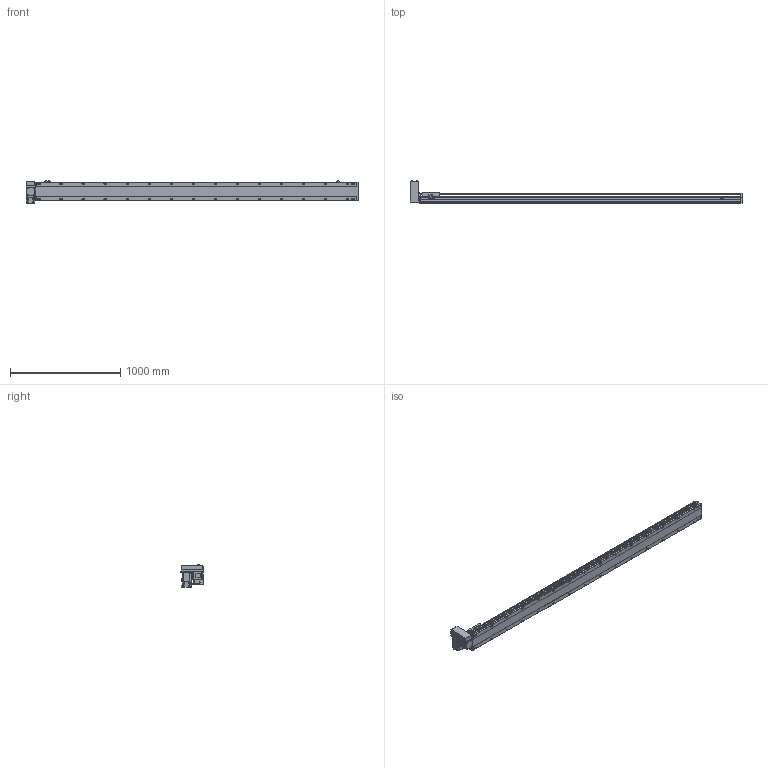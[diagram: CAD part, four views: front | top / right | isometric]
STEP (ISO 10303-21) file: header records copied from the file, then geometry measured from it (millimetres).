
FILE_DESCRIPTION( ( 'STEP AP214' ), '1' );
FILE_NAME( 'x:/temp/worker_5/temp/exporttempdir_3988_145_WV7uV/format_0/PBS170-P40-S2650-RU-T75-C1-N(0).stp', '2022-06-08T06:00:57', ( 'License CC BY-ND 4.0' ), ( 'CADENAS' ), ' ', 'PARTsolutions', ' ' );
FILE_SCHEMA( ( 'AUTOMOTIVE_DESIGN { 1 0 10303 214 1 1 1 1 }' ) );
Length unit declared in the file: millimetre
Products named in the file (7): PBS170-P40-S2650-RU-T75-C1-N(0); _PBS170-S2650()_body; _PBS170T-RU_motors; _T75-p1; _PBS170_sliser; _PBS170_plant; _PBS170_sensor
Assembly tree (8 placements, depth 2):
  PBS170-P40-S2650-RU-T75-C1-N(0)
    _PBS170-S2650()_body
    _PBS170T-RU_motors
    _T75-p1
    _PBS170_sliser
    _PBS170_plant
    _PBS170_sensor  x3
Bounding box: 3013 x 206 x 205.3 mm (x, y, z)
Volume: 22744427.1 mm3; surface area: 2859692.9 mm2
Topology: 8 solids, 8 shells, 1210 faces, 3195 edges, 2082 vertices
Faces by surface type: plane 735, cylinder 403, cone 62, sphere 8, torus 2
Full cylindrical faces by diameter (mm): 3.242 x4, 4 x2, 4.4 x4, 4.5 x6, 4.917 x4, 6 x9, 6.647 x40, 7 x2, 7.5 x4, 8 x8, 8.5 x32, 10 x4, 10.5 x32, 11 x2, 30 x2, 40 x1, 70 x1
Entity records: 44876 total; most frequent: CARTESIAN_POINT 7565, DIRECTION 5860, ORIENTED_EDGE 5508, EDGE_CURVE 2754, AXIS2_PLACEMENT_3D 2077, VERTEX_POINT 1922, LINE 1706, VECTOR 1706
